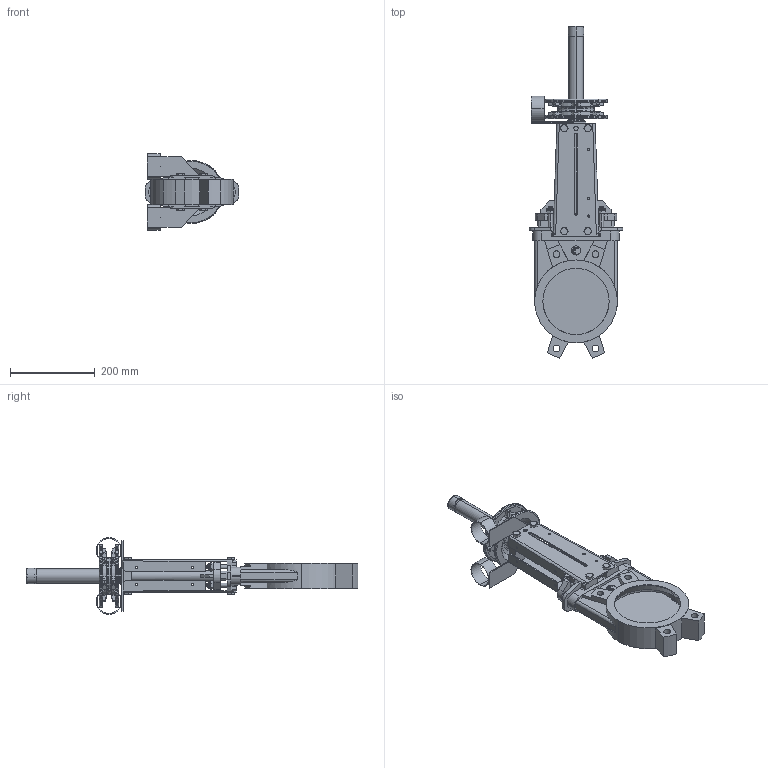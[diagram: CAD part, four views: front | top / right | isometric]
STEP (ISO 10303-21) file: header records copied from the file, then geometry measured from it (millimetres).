
FILE_DESCRIPTION (( 'STEP AP203' ), '1' );
FILE_NAME ('VG C DN150.STEP', '2010-01-27T07:34:13', ( 'farex' ), ( '' ), 'SwSTEP 2.0', 'SolidWorks 2009', '' );
FILE_SCHEMA (( 'CONFIG_CONTROL_DESIGN' ));
Length unit declared in the file: millimetre
Products named in the file (1): VG C DN150
Bounding box: 220 x 781.72 x 180.3 mm (x, y, z)
Volume: 2752761.3 mm3; surface area: 613072.7 mm2
Topology: 6 solids, 11 shells, 908 faces, 2387 edges, 1551 vertices
Faces by surface type: plane 453, cylinder 255, cone 114, bspline 64, torus 22
Entity records: 32369 total; most frequent: CARTESIAN_POINT 10139, ORIENTED_EDGE 4774, DIRECTION 4432, EDGE_CURVE 2387, AXIS2_PLACEMENT_3D 1596, VERTEX_POINT 1551, VECTOR 1240, LINE 1240
